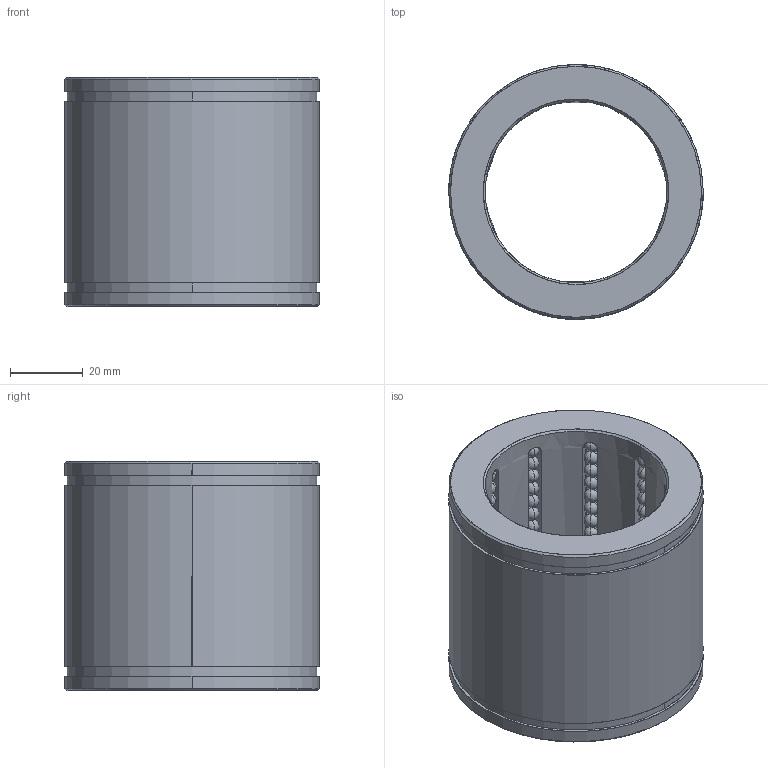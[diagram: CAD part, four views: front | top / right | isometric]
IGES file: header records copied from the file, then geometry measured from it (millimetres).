
Start section: START RECORD GO HERE.
Global section: file name: B8035063.igs; native system: DASSAULT SYSTEMES CATIA V5 R20 - www.3ds.com; preprocessor: CATIA Version 5 Release 20 ; author: Utente; organization: NB04-ASUS; date: 20200419.161134; units: millimetre
Bounding box: 70 x 70 x 63 mm (x, y, z)
Surface area: 38916 mm2 (no closed solid volume)
Topology: 0 solids, 0 shells, 604 faces, 2484 edges, 1444 vertices
Faces by surface type: revolution 568, plane 36
